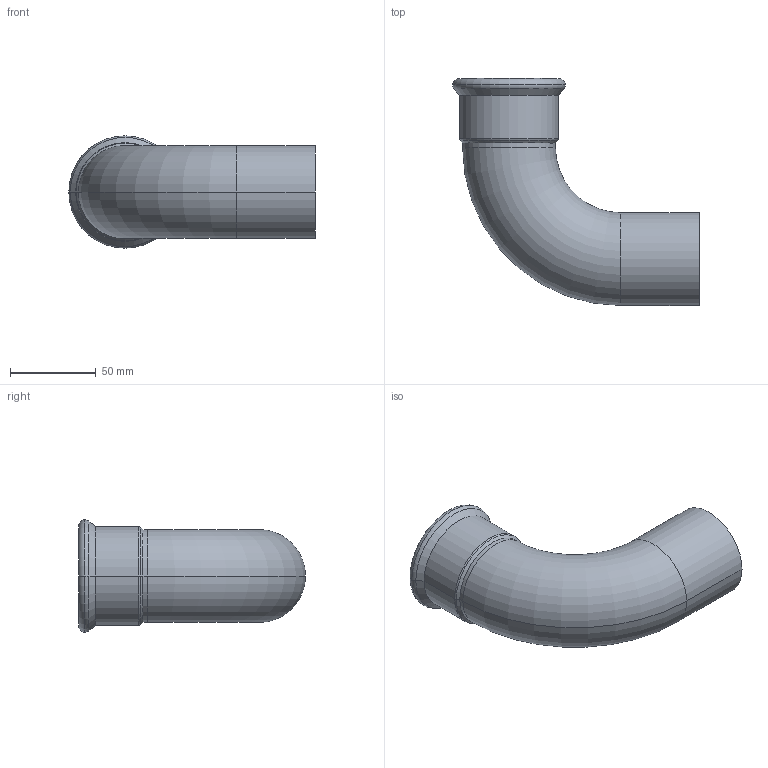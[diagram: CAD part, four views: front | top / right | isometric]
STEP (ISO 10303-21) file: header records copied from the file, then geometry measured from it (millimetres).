
FILE_DESCRIPTION(('CoCreate Modeling STEP Export'),'2;1');
FILE_NAME('C1411 54x54.stp','2014-11-11T16:36:48',(''),(''),'CoCreate Modeling STEP processor for AP214 (Solid Model)','CoCreate Modeling 17.00A 17-Jun-2010 (C) Parametric Technology GmbH','');
FILE_SCHEMA(('AUTOMOTIVE_DESIGN { 1 0 10303 214 1 1 1 1 }'));
Length unit declared in the file: millimetre
Products named in the file (2): C1411_54x54
Assembly tree (1 placements, depth 2):
  C1411_54x54
    C1411_54x54
Bounding box: 143.25 x 132 x 65.3 mm (x, y, z)
Volume: 52381 mm3; surface area: 64609.3 mm2
Topology: 1 solids, 1 shells, 32 faces, 67 edges, 39 vertices
Faces by surface type: cylinder 14, torus 10, cone 4, plane 4
Entity records: 743 total; most frequent: ORIENTED_EDGE 134, DIRECTION 116, CARTESIAN_POINT 106, EDGE_CURVE 67, AXIS2_PLACEMENT_3D 49, VERTEX_POINT 39, EDGE_LOOP 36, FACE_OUTER_BOUND 32
